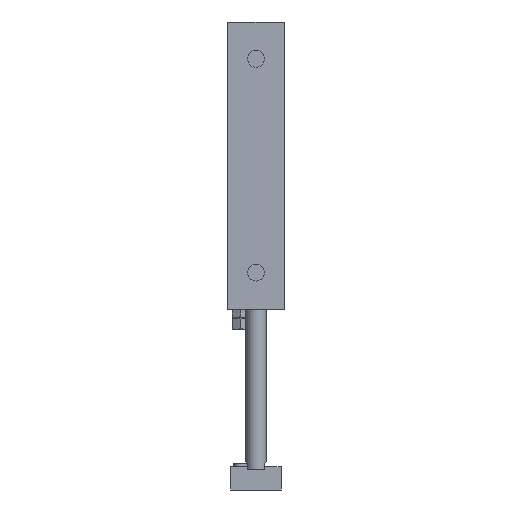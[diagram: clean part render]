
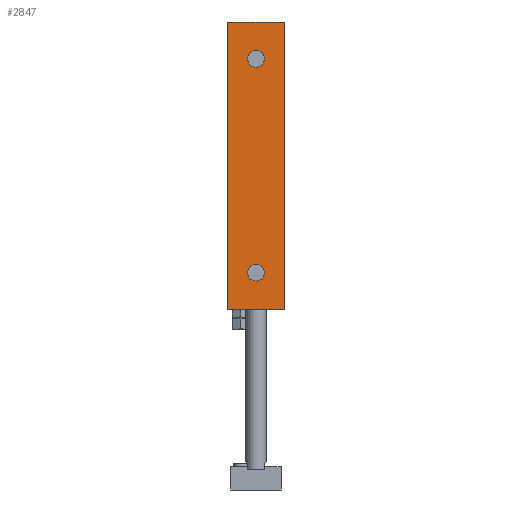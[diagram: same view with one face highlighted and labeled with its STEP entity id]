
A CAD part, front view. The second image highlights one B-rep face of the part: STEP entity #2847.
In plain terms, the highlighted planar face has unit normal (0, -1, 0).
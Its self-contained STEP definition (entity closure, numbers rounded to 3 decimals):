
#195=CARTESIAN_POINT('',(2.5,-21.0,129.0));
#196=VERTEX_POINT('',#195);
#197=CARTESIAN_POINT('',(0.0,-21.0,129.0));
#198=DIRECTION('',(0.0,1.0,0.0));
#199=DIRECTION('',(-1.0,0.0,0.0));
#200=AXIS2_PLACEMENT_3D('',#197,#198,#199);
#201=CIRCLE('',#200,2.5);
#202=EDGE_CURVE('',#196,#196,#201,.T.);
#232=CARTESIAN_POINT('',(2.5,-21.0,65.0));
#233=VERTEX_POINT('',#232);
#234=CARTESIAN_POINT('',(0.0,-21.0,65.0));
#235=DIRECTION('',(0.0,1.0,0.0));
#236=DIRECTION('',(-1.0,0.0,0.0));
#237=AXIS2_PLACEMENT_3D('',#234,#235,#236);
#238=CIRCLE('',#237,2.5);
#239=EDGE_CURVE('',#233,#233,#238,.T.);
#2662=CARTESIAN_POINT('',(-8.5,-21.0,140.0));
#2663=VERTEX_POINT('',#2662);
#2670=CARTESIAN_POINT('',(8.5,-21.0,140.0));
#2671=VERTEX_POINT('',#2670);
#2672=CARTESIAN_POINT('',(8.5,-21.0,140.0));
#2673=DIRECTION('',(-1.0,0.0,0.0));
#2674=VECTOR('',#2673,17.);
#2675=LINE('',#2672,#2674);
#2676=EDGE_CURVE('',#2671,#2663,#2675,.T.);
#2722=CARTESIAN_POINT('',(8.5,-21.0,54.0));
#2723=VERTEX_POINT('',#2722);
#2724=CARTESIAN_POINT('',(8.5,-21.0,54.0));
#2725=DIRECTION('',(0.0,0.0,1.0));
#2726=VECTOR('',#2725,86.0);
#2727=LINE('',#2724,#2726);
#2728=EDGE_CURVE('',#2723,#2671,#2727,.T.);
#2783=CARTESIAN_POINT('',(-8.5,-21.0,54.0));
#2784=VERTEX_POINT('',#2783);
#2785=CARTESIAN_POINT('',(8.5,-21.0,54.0));
#2786=DIRECTION('',(-1.0,0.0,0.0));
#2787=VECTOR('',#2786,17.);
#2788=LINE('',#2785,#2787);
#2789=EDGE_CURVE('',#2723,#2784,#2788,.T.);
#2825=CARTESIAN_POINT('',(8.5,-21.0,54.0));
#2826=DIRECTION('',(0.0,-1.0,0.0));
#2827=DIRECTION('',(0.0,0.0,-1.0));
#2828=AXIS2_PLACEMENT_3D('',#2825,#2826,#2827);
#2829=PLANE('',#2828);
#2830=ORIENTED_EDGE('',*,*,#2676,.T.);
#2831=CARTESIAN_POINT('',(-8.5,-21.0,54.0));
#2832=DIRECTION('',(0.0,0.0,1.0));
#2833=VECTOR('',#2832,86.0);
#2834=LINE('',#2831,#2833);
#2835=EDGE_CURVE('',#2784,#2663,#2834,.T.);
#2836=ORIENTED_EDGE('',*,*,#2835,.F.);
#2837=ORIENTED_EDGE('',*,*,#2789,.F.);
#2838=ORIENTED_EDGE('',*,*,#2728,.T.);
#2839=EDGE_LOOP('',(#2830,#2836,#2837,#2838));
#2840=FACE_OUTER_BOUND('',#2839,.T.);
#2841=ORIENTED_EDGE('',*,*,#202,.T.);
#2842=EDGE_LOOP('',(#2841));
#2843=FACE_BOUND('',#2842,.T.);
#2844=ORIENTED_EDGE('',*,*,#239,.T.);
#2845=EDGE_LOOP('',(#2844));
#2846=FACE_BOUND('',#2845,.T.);
#2847=ADVANCED_FACE('',(#2840,#2843,#2846),#2829,.T.);
